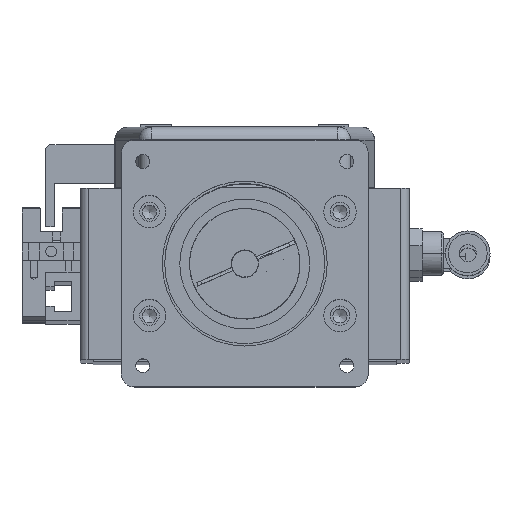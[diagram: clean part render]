
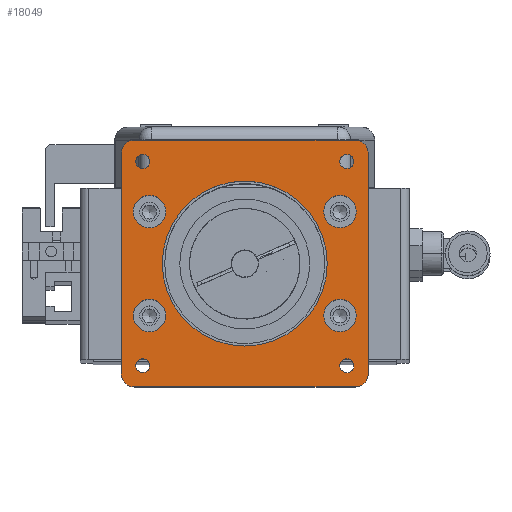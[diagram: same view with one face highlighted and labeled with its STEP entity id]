
A CAD part, top view. The second image highlights one B-rep face of the part: STEP entity #18049.
In plain terms, the highlighted planar face has unit normal (0, 0, 1).
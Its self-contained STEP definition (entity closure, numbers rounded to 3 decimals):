
#16834=CARTESIAN_POINT('',(-25.5,-28.5,12.));
#16835=VERTEX_POINT('',#16834);
#16836=CARTESIAN_POINT('',(-28.5,-25.5,12.));
#16837=VERTEX_POINT('',#16836);
#16838=CARTESIAN_POINT('',(-25.5,-25.5,12.));
#16839=DIRECTION('',(0.0,0.0,-1.));
#16840=DIRECTION('',(-0.707,-0.707,0.0));
#16841=AXIS2_PLACEMENT_3D('',#16838,#16839,#16840);
#16842=CIRCLE('',#16841,3.);
#16843=EDGE_CURVE('',#16835,#16837,#16842,.T.);
#16885=CARTESIAN_POINT('',(25.5,-28.5,12.));
#16886=VERTEX_POINT('',#16885);
#16893=CARTESIAN_POINT('',(25.5,-28.5,12.));
#16894=DIRECTION('',(-1.0,0.0,0.0));
#16895=VECTOR('',#16894,51.);
#16896=LINE('',#16893,#16895);
#16897=EDGE_CURVE('',#16886,#16835,#16896,.T.);
#16970=CARTESIAN_POINT('',(28.5,-25.5,12.));
#16971=VERTEX_POINT('',#16970);
#16972=CARTESIAN_POINT('',(25.5,-25.5,12.));
#16973=DIRECTION('',(0.0,0.0,-1.));
#16974=DIRECTION('',(0.707,-0.707,0.0));
#16975=AXIS2_PLACEMENT_3D('',#16972,#16973,#16974);
#16976=CIRCLE('',#16975,3.);
#16977=EDGE_CURVE('',#16971,#16886,#16976,.T.);
#17013=CARTESIAN_POINT('',(28.5,25.5,12.));
#17014=VERTEX_POINT('',#17013);
#17021=CARTESIAN_POINT('',(28.5,25.5,12.));
#17022=DIRECTION('',(0.0,-1.0,0.0));
#17023=VECTOR('',#17022,51.0);
#17024=LINE('',#17021,#17023);
#17025=EDGE_CURVE('',#17014,#16971,#17024,.T.);
#17035=CARTESIAN_POINT('',(-28.5,25.5,12.));
#17036=VERTEX_POINT('',#17035);
#17037=CARTESIAN_POINT('',(-25.5,28.5,12.));
#17038=VERTEX_POINT('',#17037);
#17039=CARTESIAN_POINT('',(-25.5,25.5,12.));
#17040=DIRECTION('',(0.0,0.0,-1.));
#17041=DIRECTION('',(-0.707,0.707,0.0));
#17042=AXIS2_PLACEMENT_3D('',#17039,#17040,#17041);
#17043=CIRCLE('',#17042,3.);
#17044=EDGE_CURVE('',#17036,#17038,#17043,.T.);
#17070=CARTESIAN_POINT('',(25.5,28.5,12.));
#17071=VERTEX_POINT('',#17070);
#17072=CARTESIAN_POINT('',(-25.5,28.5,12.));
#17073=DIRECTION('',(1.0,0.0,0.0));
#17074=VECTOR('',#17073,51.);
#17075=LINE('',#17072,#17074);
#17076=EDGE_CURVE('',#17038,#17071,#17075,.T.);
#17097=CARTESIAN_POINT('',(25.5,25.5,12.));
#17098=DIRECTION('',(0.0,0.0,-1.0));
#17099=DIRECTION('',(0.707,0.707,0.0));
#17100=AXIS2_PLACEMENT_3D('',#17097,#17098,#17099);
#17101=CIRCLE('',#17100,3.);
#17102=EDGE_CURVE('',#17071,#17014,#17101,.T.);
#17379=CARTESIAN_POINT('',(25.196,-23.575,12.));
#17380=VERTEX_POINT('',#17379);
#17381=CARTESIAN_POINT('',(23.575,-23.575,12.));
#17382=DIRECTION('',(0.0,0.0,-1.0));
#17383=DIRECTION('',(1.0,0.0,0.0));
#17384=AXIS2_PLACEMENT_3D('',#17381,#17382,#17383);
#17385=CIRCLE('',#17384,1.621);
#17386=EDGE_CURVE('',#17380,#17380,#17385,.T.);
#17420=CARTESIAN_POINT('',(-21.954,23.575,12.));
#17421=VERTEX_POINT('',#17420);
#17422=CARTESIAN_POINT('',(-23.575,23.575,12.));
#17423=DIRECTION('',(0.0,0.0,-1.0));
#17424=DIRECTION('',(1.0,0.0,0.0));
#17425=AXIS2_PLACEMENT_3D('',#17422,#17423,#17424);
#17426=CIRCLE('',#17425,1.621);
#17427=EDGE_CURVE('',#17421,#17421,#17426,.T.);
#17461=CARTESIAN_POINT('',(25.196,23.575,12.));
#17462=VERTEX_POINT('',#17461);
#17463=CARTESIAN_POINT('',(23.575,23.575,12.));
#17464=DIRECTION('',(0.0,0.0,-1.0));
#17465=DIRECTION('',(1.0,0.0,0.0));
#17466=AXIS2_PLACEMENT_3D('',#17463,#17464,#17465);
#17467=CIRCLE('',#17466,1.621);
#17468=EDGE_CURVE('',#17462,#17462,#17467,.T.);
#17502=CARTESIAN_POINT('',(-21.954,-23.575,12.));
#17503=VERTEX_POINT('',#17502);
#17504=CARTESIAN_POINT('',(-23.575,-23.575,12.));
#17505=DIRECTION('',(0.0,0.0,-1.0));
#17506=DIRECTION('',(1.0,0.0,0.0));
#17507=AXIS2_PLACEMENT_3D('',#17504,#17505,#17506);
#17508=CIRCLE('',#17507,1.621);
#17509=EDGE_CURVE('',#17503,#17503,#17508,.T.);
#17568=CARTESIAN_POINT('',(25.75,-12.,12.));
#17569=VERTEX_POINT('',#17568);
#17570=CARTESIAN_POINT('',(22.0,-12.,12.));
#17571=DIRECTION('',(0.0,0.0,-1.0));
#17572=DIRECTION('',(1.0,0.0,0.0));
#17573=AXIS2_PLACEMENT_3D('',#17570,#17571,#17572);
#17574=CIRCLE('',#17573,3.75);
#17575=EDGE_CURVE('',#17569,#17569,#17574,.T.);
#17678=CARTESIAN_POINT('',(-18.25,12.,12.));
#17679=VERTEX_POINT('',#17678);
#17680=CARTESIAN_POINT('',(-22.0,12.,12.));
#17681=DIRECTION('',(0.0,0.0,-1.0));
#17682=DIRECTION('',(1.0,0.0,0.0));
#17683=AXIS2_PLACEMENT_3D('',#17680,#17681,#17682);
#17684=CIRCLE('',#17683,3.75);
#17685=EDGE_CURVE('',#17679,#17679,#17684,.T.);
#17788=CARTESIAN_POINT('',(25.75,12.,12.));
#17789=VERTEX_POINT('',#17788);
#17790=CARTESIAN_POINT('',(22.0,12.,12.));
#17791=DIRECTION('',(0.0,0.0,-1.0));
#17792=DIRECTION('',(1.0,0.0,0.0));
#17793=AXIS2_PLACEMENT_3D('',#17790,#17791,#17792);
#17794=CIRCLE('',#17793,3.75);
#17795=EDGE_CURVE('',#17789,#17789,#17794,.T.);
#17898=CARTESIAN_POINT('',(-18.25,-12.,12.));
#17899=VERTEX_POINT('',#17898);
#17900=CARTESIAN_POINT('',(-22.,-12.,12.));
#17901=DIRECTION('',(0.0,0.0,-1.0));
#17902=DIRECTION('',(1.0,0.0,0.0));
#17903=AXIS2_PLACEMENT_3D('',#17900,#17901,#17902);
#17904=CIRCLE('',#17903,3.75);
#17905=EDGE_CURVE('',#17899,#17899,#17904,.T.);
#17970=CARTESIAN_POINT('',(19.05,0.,12.));
#17971=VERTEX_POINT('',#17970);
#17972=CARTESIAN_POINT('',(0.0,0.0,12.));
#17973=DIRECTION('',(0.0,0.0,-1.0));
#17974=DIRECTION('',(-1.0,0.0,0.0));
#17975=AXIS2_PLACEMENT_3D('',#17972,#17973,#17974);
#17976=CIRCLE('',#17975,19.05);
#17977=EDGE_CURVE('',#17971,#17971,#17976,.T.);
#18002=CARTESIAN_POINT('',(0.0,0.,12.));
#18003=DIRECTION('',(0.0,0.0,1.0));
#18004=DIRECTION('',(1.0,0.0,0.0));
#18005=AXIS2_PLACEMENT_3D('',#18002,#18003,#18004);
#18006=PLANE('',#18005);
#18007=ORIENTED_EDGE('',*,*,#16843,.F.);
#18008=ORIENTED_EDGE('',*,*,#16897,.F.);
#18009=ORIENTED_EDGE('',*,*,#16977,.F.);
#18010=ORIENTED_EDGE('',*,*,#17025,.F.);
#18011=ORIENTED_EDGE('',*,*,#17102,.F.);
#18012=ORIENTED_EDGE('',*,*,#17076,.F.);
#18013=ORIENTED_EDGE('',*,*,#17044,.F.);
#18014=CARTESIAN_POINT('',(-28.5,-25.5,12.));
#18015=DIRECTION('',(0.0,1.0,0.0));
#18016=VECTOR('',#18015,51.0);
#18017=LINE('',#18014,#18016);
#18018=EDGE_CURVE('',#16837,#17036,#18017,.T.);
#18019=ORIENTED_EDGE('',*,*,#18018,.F.);
#18020=EDGE_LOOP('',(#18007,#18008,#18009,#18010,#18011,#18012,#18013,#18019));
#18021=FACE_OUTER_BOUND('',#18020,.T.);
#18022=ORIENTED_EDGE('',*,*,#17386,.T.);
#18023=EDGE_LOOP('',(#18022));
#18024=FACE_BOUND('',#18023,.T.);
#18025=ORIENTED_EDGE('',*,*,#17427,.T.);
#18026=EDGE_LOOP('',(#18025));
#18027=FACE_BOUND('',#18026,.T.);
#18028=ORIENTED_EDGE('',*,*,#17468,.T.);
#18029=EDGE_LOOP('',(#18028));
#18030=FACE_BOUND('',#18029,.T.);
#18031=ORIENTED_EDGE('',*,*,#17509,.T.);
#18032=EDGE_LOOP('',(#18031));
#18033=FACE_BOUND('',#18032,.T.);
#18034=ORIENTED_EDGE('',*,*,#17575,.T.);
#18035=EDGE_LOOP('',(#18034));
#18036=FACE_BOUND('',#18035,.T.);
#18037=ORIENTED_EDGE('',*,*,#17685,.T.);
#18038=EDGE_LOOP('',(#18037));
#18039=FACE_BOUND('',#18038,.T.);
#18040=ORIENTED_EDGE('',*,*,#17795,.T.);
#18041=EDGE_LOOP('',(#18040));
#18042=FACE_BOUND('',#18041,.T.);
#18043=ORIENTED_EDGE('',*,*,#17905,.T.);
#18044=EDGE_LOOP('',(#18043));
#18045=FACE_BOUND('',#18044,.T.);
#18046=ORIENTED_EDGE('',*,*,#17977,.T.);
#18047=EDGE_LOOP('',(#18046));
#18048=FACE_BOUND('',#18047,.T.);
#18049=ADVANCED_FACE('',(#18021,#18024,#18027,#18030,#18033,#18036,#18039,#18042,#18045,#18048),#18006,.T.);
